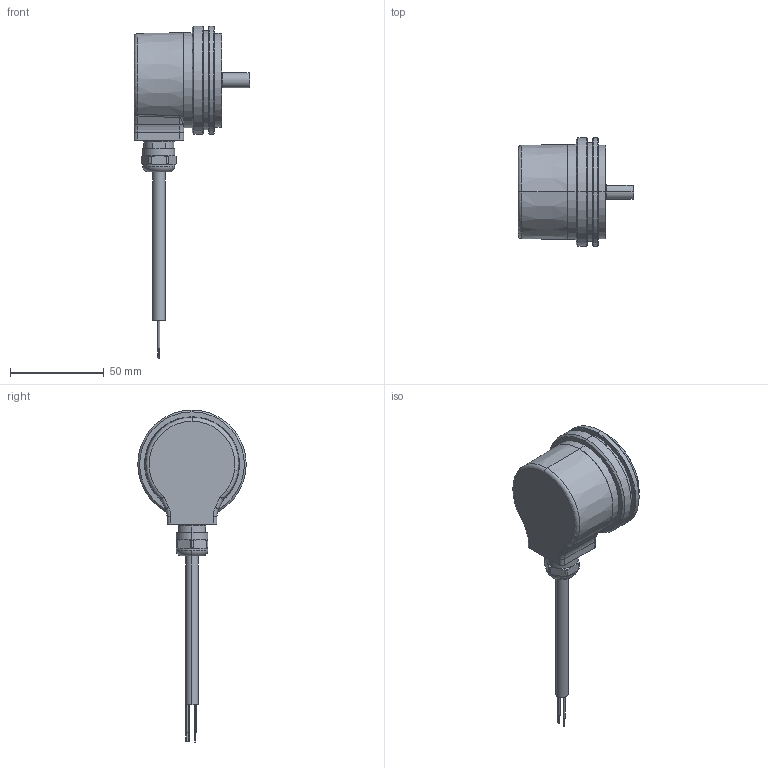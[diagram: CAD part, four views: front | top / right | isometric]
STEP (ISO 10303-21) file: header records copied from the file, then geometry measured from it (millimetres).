
FILE_DESCRIPTION (( 'STEP AP203' ), '1' );
FILE_NAME ('8.5000.B6X2.XXXX.STEP', '2017-04-05T08:07:27', ( '' ), ( '' ), 'SwSTEP 2.0', 'SolidWorks 2017', '' );
FILE_SCHEMA (( 'CONFIG_CONTROL_DESIGN' ));
Length unit declared in the file: millimetre
Products named in the file (1): 8.5000.B6X2.XXXX
Bounding box: 62 x 58 x 177.5 mm (x, y, z)
Volume: 69142.7 mm3; surface area: 38028.4 mm2
Topology: 13 solids, 13 shells, 409 faces, 959 edges, 558 vertices
Faces by surface type: cylinder 138, plane 93, cone 89, torus 45, bspline 44
Entity records: 13424 total; most frequent: CARTESIAN_POINT 4293, DIRECTION 2007, ORIENTED_EDGE 1802, EDGE_CURVE 901, AXIS2_PLACEMENT_3D 860, VERTEX_POINT 558, CIRCLE 494, EDGE_LOOP 479
